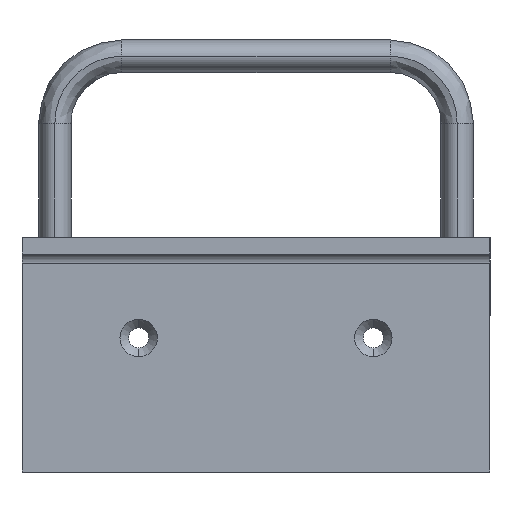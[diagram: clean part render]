
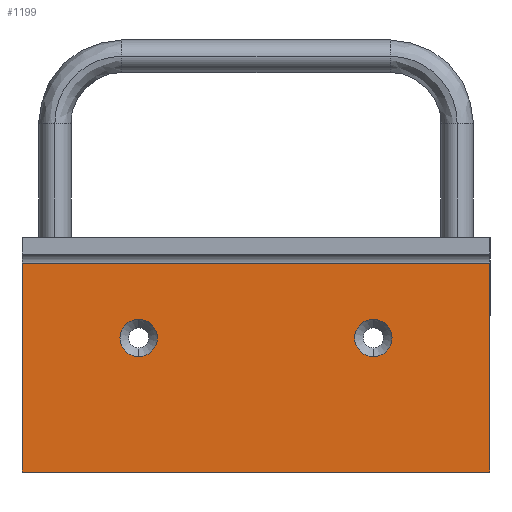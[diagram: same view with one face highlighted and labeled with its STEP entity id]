
A CAD part, left-side view. The second image highlights one B-rep face of the part: STEP entity #1199.
In plain terms, the highlighted planar face has unit normal (-1, 0, 0).
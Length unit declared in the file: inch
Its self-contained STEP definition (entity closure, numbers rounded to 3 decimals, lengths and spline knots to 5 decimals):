
#10 = EDGE_CURVE ( 'NONE', #3236, #1428, #5779, .T. ) ;
#11 = CARTESIAN_POINT ( 'NONE',  ( -8.585, -0.875, -0.6105 ) ) ;
#27 = DIRECTION ( 'NONE',  ( -1., 0., 0. ) ) ;
#100 = CARTESIAN_POINT ( 'NONE',  ( -8.585, 1.745, -1.75 ) ) ;
#236 = VERTEX_POINT ( 'NONE', #4320 ) ;
#417 = ORIENTED_EDGE ( 'NONE', *, *, #916, .F. ) ;
#515 = CARTESIAN_POINT ( 'NONE',  ( -8.585, 0.875, -0.6105 ) ) ;
#624 = ORIENTED_EDGE ( 'NONE', *, *, #4023, .T. ) ;
#625 = VERTEX_POINT ( 'NONE', #515 ) ;
#716 = DIRECTION ( 'NONE',  ( -1., 0., 0. ) ) ;
#745 = EDGE_CURVE ( 'NONE', #1428, #3236, #3483, .T. ) ;
#781 = VECTOR ( 'NONE', #1296, 39.37008 ) ;
#790 = CIRCLE ( 'NONE', #4978, 0.1395 ) ;
#916 = EDGE_CURVE ( 'NONE', #1158, #625, #3961, .T. ) ;
#927 = CARTESIAN_POINT ( 'NONE',  ( -8.585, 0.875, -0.75 ) ) ;
#980 = FACE_BOUND ( 'NONE', #2892, .T. ) ;
#1127 = CARTESIAN_POINT ( 'NONE',  ( -8.585, 1.745, -1.75 ) ) ;
#1158 = VERTEX_POINT ( 'NONE', #5797 ) ;
#1160 = DIRECTION ( 'NONE',  ( 0., -1., 0. ) ) ;
#1182 = DIRECTION ( 'NONE',  ( 0., 0., 1. ) ) ;
#1199 = ADVANCED_FACE ( 'NONE', ( #980, #4089, #3601 ), #2786, .F. ) ;
#1247 = LINE ( 'NONE', #3959, #781 ) ;
#1296 = DIRECTION ( 'NONE',  ( 0., 0., 1. ) ) ;
#1428 = VERTEX_POINT ( 'NONE', #4570 ) ;
#1452 = EDGE_CURVE ( 'NONE', #236, #5718, #3426, .T. ) ;
#1574 = CARTESIAN_POINT ( 'NONE',  ( -8.585, -1.745, -1.75 ) ) ;
#1576 = CARTESIAN_POINT ( 'NONE',  ( -8.585, -0.875, -0.75 ) ) ;
#1605 = DIRECTION ( 'NONE',  ( 0., 0., 1. ) ) ;
#1744 = EDGE_LOOP ( 'NONE', ( #5227, #3040 ) ) ;
#1805 = DIRECTION ( 'NONE',  ( 0., 0., 1. ) ) ;
#2033 = LINE ( 'NONE', #2876, #2493 ) ;
#2207 = ORIENTED_EDGE ( 'NONE', *, *, #1452, .T. ) ;
#2220 = DIRECTION ( 'NONE',  ( 1., 0., 0. ) ) ;
#2406 = ORIENTED_EDGE ( 'NONE', *, *, #5747, .T. ) ;
#2419 = ORIENTED_EDGE ( 'NONE', *, *, #3512, .F. ) ;
#2493 = VECTOR ( 'NONE', #3842, 39.37008 ) ;
#2546 = DIRECTION ( 'NONE',  ( -1., 0., 0. ) ) ;
#2661 = DIRECTION ( 'NONE',  ( 0., 0., 1. ) ) ;
#2786 = PLANE ( 'NONE',  #5269 ) ;
#2876 = CARTESIAN_POINT ( 'NONE',  ( -8.585, 1.745, -0.195 ) ) ;
#2892 = EDGE_LOOP ( 'NONE', ( #2419, #417 ) ) ;
#2904 = CARTESIAN_POINT ( 'NONE',  ( -8.585, 1.745, -0.195 ) ) ;
#3040 = ORIENTED_EDGE ( 'NONE', *, *, #745, .F. ) ;
#3140 = EDGE_CURVE ( 'NONE', #3761, #5621, #1247, .T. ) ;
#3177 = CARTESIAN_POINT ( 'NONE',  ( -8.585, 0.875, -0.75 ) ) ;
#3236 = VERTEX_POINT ( 'NONE', #11 ) ;
#3281 = AXIS2_PLACEMENT_3D ( 'NONE', #4723, #716, #1605 ) ;
#3338 = VECTOR ( 'NONE', #1182, 39.37008 ) ;
#3426 = LINE ( 'NONE', #1574, #3338 ) ;
#3483 = CIRCLE ( 'NONE', #5588, 0.1395 ) ;
#3512 = EDGE_CURVE ( 'NONE', #625, #1158, #790, .T. ) ;
#3601 = FACE_OUTER_BOUND ( 'NONE', #4958, .T. ) ;
#3761 = VERTEX_POINT ( 'NONE', #100 ) ;
#3842 = DIRECTION ( 'NONE',  ( 0., 1., 0. ) ) ;
#3951 = DIRECTION ( 'NONE',  ( 0., 0., 1. ) ) ;
#3959 = CARTESIAN_POINT ( 'NONE',  ( -8.585, 1.745, -1.75 ) ) ;
#3961 = CIRCLE ( 'NONE', #5422, 0.1395 ) ;
#4023 = EDGE_CURVE ( 'NONE', #5718, #5621, #2033, .T. ) ;
#4089 = FACE_BOUND ( 'NONE', #1744, .T. ) ;
#4320 = CARTESIAN_POINT ( 'NONE',  ( -8.585, -1.745, -1.75 ) ) ;
#4364 = CARTESIAN_POINT ( 'NONE',  ( -8.585, -1.745, -0.195 ) ) ;
#4534 = CARTESIAN_POINT ( 'NONE',  ( -8.585, 1.745, -1.75 ) ) ;
#4541 = VECTOR ( 'NONE', #1160, 39.37008 ) ;
#4570 = CARTESIAN_POINT ( 'NONE',  ( -8.585, -0.875, -0.8895 ) ) ;
#4723 = CARTESIAN_POINT ( 'NONE',  ( -8.585, -0.875, -0.75 ) ) ;
#4958 = EDGE_LOOP ( 'NONE', ( #2207, #624, #5445, #2406 ) ) ;
#4978 = AXIS2_PLACEMENT_3D ( 'NONE', #927, #27, #2661 ) ;
#5227 = ORIENTED_EDGE ( 'NONE', *, *, #10, .F. ) ;
#5269 = AXIS2_PLACEMENT_3D ( 'NONE', #4534, #2220, #5407 ) ;
#5407 = DIRECTION ( 'NONE',  ( 0., 0., -1. ) ) ;
#5422 = AXIS2_PLACEMENT_3D ( 'NONE', #3177, #5443, #1805 ) ;
#5443 = DIRECTION ( 'NONE',  ( -1., 0., 0. ) ) ;
#5445 = ORIENTED_EDGE ( 'NONE', *, *, #3140, .F. ) ;
#5588 = AXIS2_PLACEMENT_3D ( 'NONE', #1576, #2546, #3951 ) ;
#5596 = LINE ( 'NONE', #1127, #4541 ) ;
#5621 = VERTEX_POINT ( 'NONE', #2904 ) ;
#5718 = VERTEX_POINT ( 'NONE', #4364 ) ;
#5747 = EDGE_CURVE ( 'NONE', #3761, #236, #5596, .T. ) ;
#5779 = CIRCLE ( 'NONE', #3281, 0.1395 ) ;
#5797 = CARTESIAN_POINT ( 'NONE',  ( -8.585, 0.875, -0.8895 ) ) ;
